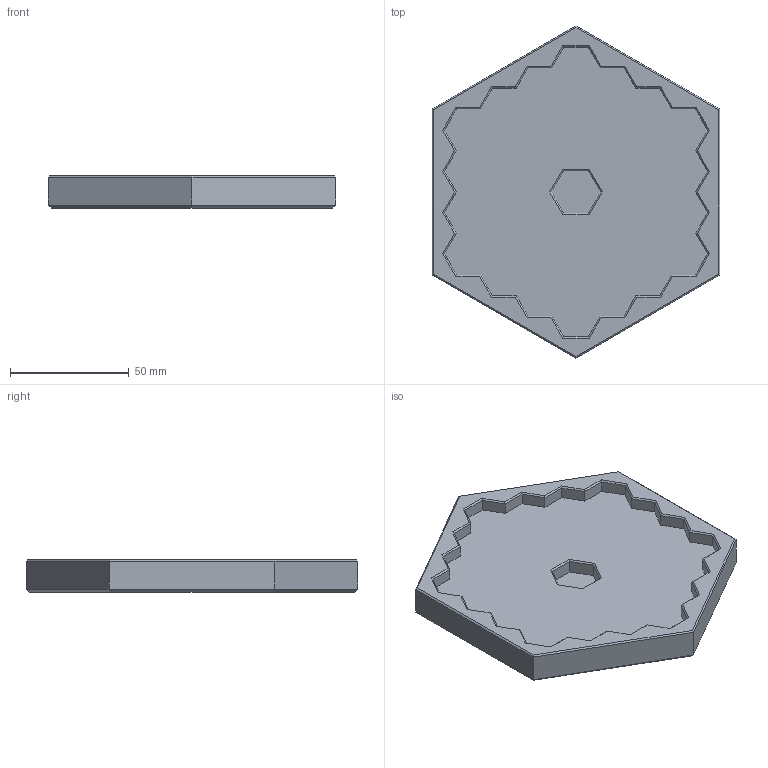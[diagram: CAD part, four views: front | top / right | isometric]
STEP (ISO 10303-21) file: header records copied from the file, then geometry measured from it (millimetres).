
FILE_DESCRIPTION(/* description */ (''),/* implementation_level */ '2;1');
FILE_NAME(/* name */ 'hnefatafl_case_bottom',/* time_stamp */ '2024-08-03T13:45:24+02:00',/* author */ (''),/* organization */ (''),/* preprocessor_version */ 'ST-DEVELOPER v19.2',/* originating_system */ 'Rhino 8.11',/* authorisation */ '');
FILE_SCHEMA (('CONFIG_CONTROL_DESIGN'));
Length unit declared in the file: millimetre
Products named in the file (1): Document
Bounding box: 121.24 x 140 x 13.5 mm (x, y, z)
Volume: 115794.3 mm3; surface area: 33218.9 mm2
Topology: 1 solids, 1 shells, 118 faces, 282 edges, 168 vertices
Faces by surface type: plane 118
Entity records: 3552 total; most frequent: CARTESIAN_POINT 1452, ORIENTED_EDGE 564, EDGE_CURVE 282, B_SPLINE_CURVE_WITH_KNOTS 282, VERTEX_POINT 168, DIRECTION 122, EDGE_LOOP 120, AXIS2_PLACEMENT_3D 120
